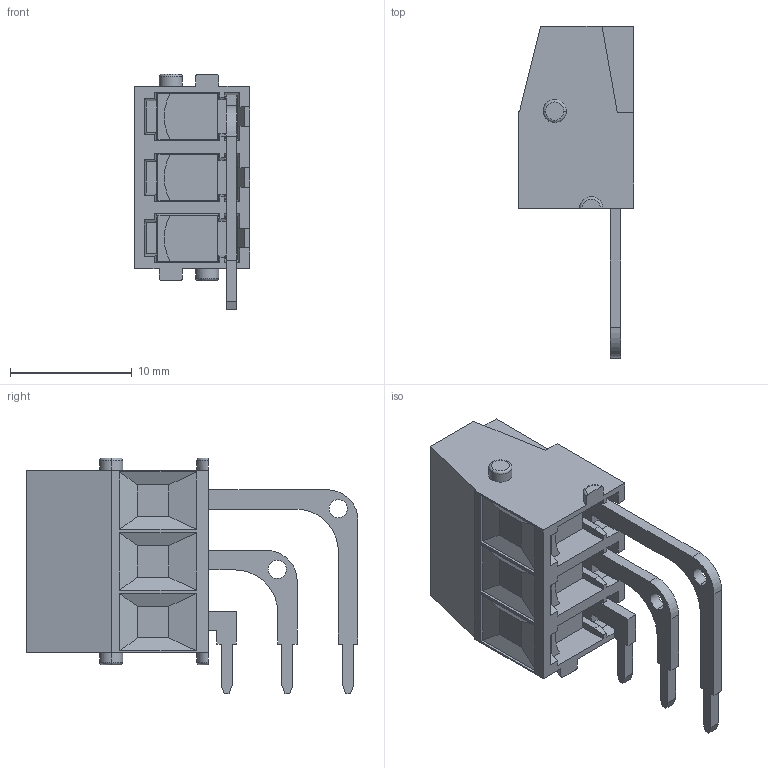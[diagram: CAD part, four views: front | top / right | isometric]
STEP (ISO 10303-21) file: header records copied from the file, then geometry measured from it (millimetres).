
FILE_DESCRIPTION((''),'2;1');
FILE_NAME('3','2019-05-14T',('zhenbing.lai'),(''),'CREO PARAMETRIC BY PTC INC, 2016260','CREO PARAMETRIC BY PTC INC, 2016260','');
FILE_SCHEMA(('CONFIG_CONTROL_DESIGN'));
Length unit declared in the file: millimetre
Products named in the file (1): 3
Bounding box: 9.5 x 27.3 x 19.4 mm (x, y, z)
Volume: 1717.4 mm3; surface area: 1862.6 mm2
Topology: 1 solids, 1 shells, 352 faces, 986 edges, 650 vertices
Faces by surface type: plane 281, cylinder 53, torus 18
Entity records: 11502 total; most frequent: CARTESIAN_POINT 2312, ORIENTED_EDGE 1972, DIRECTION 1816, EDGE_CURVE 986, VECTOR 764, LINE 764, VERTEX_POINT 650, AXIS2_PLACEMENT_3D 526
